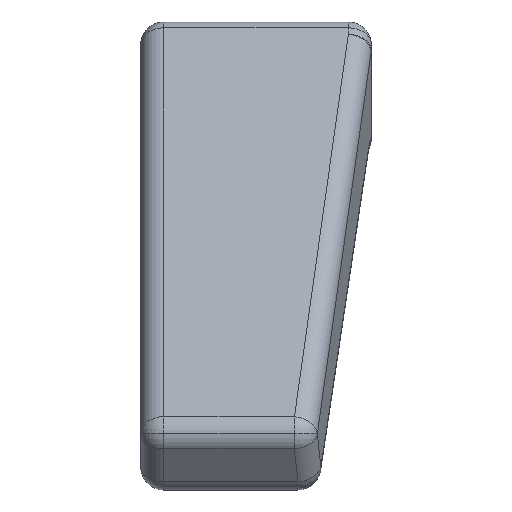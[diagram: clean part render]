
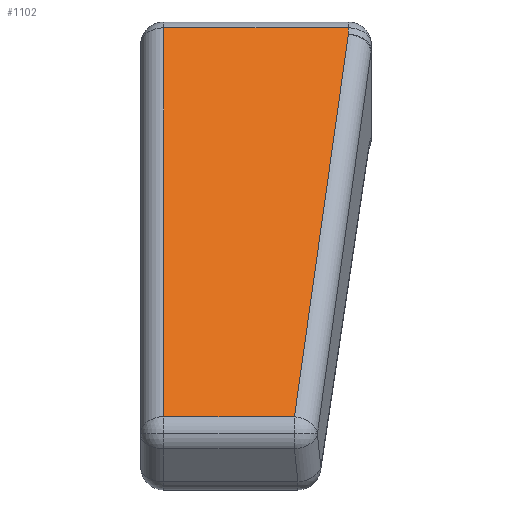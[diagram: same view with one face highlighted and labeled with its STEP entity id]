
A CAD part, top view. The second image highlights one B-rep face of the part: STEP entity #1102.
In plain terms, the highlighted planar face has unit normal (0, 0.747, 0.664).
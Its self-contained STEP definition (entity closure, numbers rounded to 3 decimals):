
#57 = DIRECTION ( 'NONE',  ( 0., 0.664, -0.747 ) ) ;
#65 = VERTEX_POINT ( 'NONE', #372 ) ;
#78 = CARTESIAN_POINT ( 'NONE',  ( -10., 5.495, 25.568 ) ) ;
#84 = DIRECTION ( 'NONE',  ( 0.093, 0.662, -0.744 ) ) ;
#159 = ORIENTED_EDGE ( 'NONE', *, *, #575, .T. ) ;
#214 = LINE ( 'NONE', #243, #1269 ) ;
#239 = LINE ( 'NONE', #78, #408 ) ;
#243 = CARTESIAN_POINT ( 'NONE',  ( -8., -28.273, 63.548 ) ) ;
#333 = CARTESIAN_POINT ( 'NONE',  ( 3.332, -28.273, 63.548 ) ) ;
#352 = VECTOR ( 'NONE', #1285, 1000. ) ;
#355 = EDGE_CURVE ( 'NONE', #693, #65, #239, .T. ) ;
#372 = CARTESIAN_POINT ( 'NONE',  ( -8., 5.495, 25.568 ) ) ;
#408 = VECTOR ( 'NONE', #582, 1000. ) ;
#453 = VERTEX_POINT ( 'NONE', #841 ) ;
#454 = DIRECTION ( 'NONE',  ( 0., -0.664, 0.747 ) ) ;
#499 = ORIENTED_EDGE ( 'NONE', *, *, #858, .T. ) ;
#502 = PLANE ( 'NONE',  #547 ) ;
#538 = CARTESIAN_POINT ( 'NONE',  ( 9.441, 15.179, 14.676 ) ) ;
#547 = AXIS2_PLACEMENT_3D ( 'NONE', #945, #720, #57 ) ;
#575 = EDGE_CURVE ( 'NONE', #65, #1426, #214, .T. ) ;
#582 = DIRECTION ( 'NONE',  ( -1., 0., 0. ) ) ;
#585 = ORIENTED_EDGE ( 'NONE', *, *, #1235, .T. ) ;
#616 = VECTOR ( 'NONE', #963, 1000. ) ;
#641 = CARTESIAN_POINT ( 'NONE',  ( 0., -28.273, 63.548 ) ) ;
#642 = ORIENTED_EDGE ( 'NONE', *, *, #355, .T. ) ;
#655 = ORIENTED_EDGE ( 'NONE', *, *, #832, .T. ) ;
#693 = VERTEX_POINT ( 'NONE', #1166 ) ;
#720 = DIRECTION ( 'NONE',  ( 0., -0.747, -0.664 ) ) ;
#750 = CARTESIAN_POINT ( 'NONE',  ( 8., 15.765, 14.017 ) ) ;
#787 = CARTESIAN_POINT ( 'NONE',  ( -8., -28.273, 63.548 ) ) ;
#832 = EDGE_CURVE ( 'NONE', #453, #693, #843, .T. ) ;
#841 = CARTESIAN_POINT ( 'NONE',  ( 8., 4.929, 26.204 ) ) ;
#843 = LINE ( 'NONE', #750, #352 ) ;
#858 = EDGE_CURVE ( 'NONE', #1426, #1414, #1291, .T. ) ;
#945 = CARTESIAN_POINT ( 'NONE',  ( 0., 15.765, 14.017 ) ) ;
#963 = DIRECTION ( 'NONE',  ( 1., 0., 0. ) ) ;
#1058 = FACE_OUTER_BOUND ( 'NONE', #1253, .T. ) ;
#1081 = VECTOR ( 'NONE', #84, 1000. ) ;
#1102 = ADVANCED_FACE ( 'NONE', ( #1058 ), #502, .F. ) ;
#1166 = CARTESIAN_POINT ( 'NONE',  ( 8., 5.495, 25.568 ) ) ;
#1235 = EDGE_CURVE ( 'NONE', #1414, #453, #1293, .T. ) ;
#1253 = EDGE_LOOP ( 'NONE', ( #499, #585, #655, #642, #159 ) ) ;
#1269 = VECTOR ( 'NONE', #454, 1000. ) ;
#1285 = DIRECTION ( 'NONE',  ( 0., 0.664, -0.747 ) ) ;
#1291 = LINE ( 'NONE', #641, #616 ) ;
#1293 = LINE ( 'NONE', #538, #1081 ) ;
#1414 = VERTEX_POINT ( 'NONE', #333 ) ;
#1426 = VERTEX_POINT ( 'NONE', #787 ) ;
